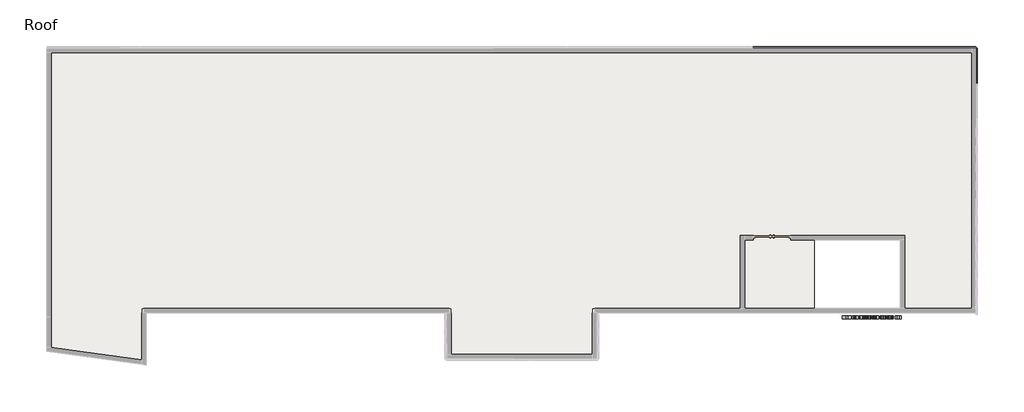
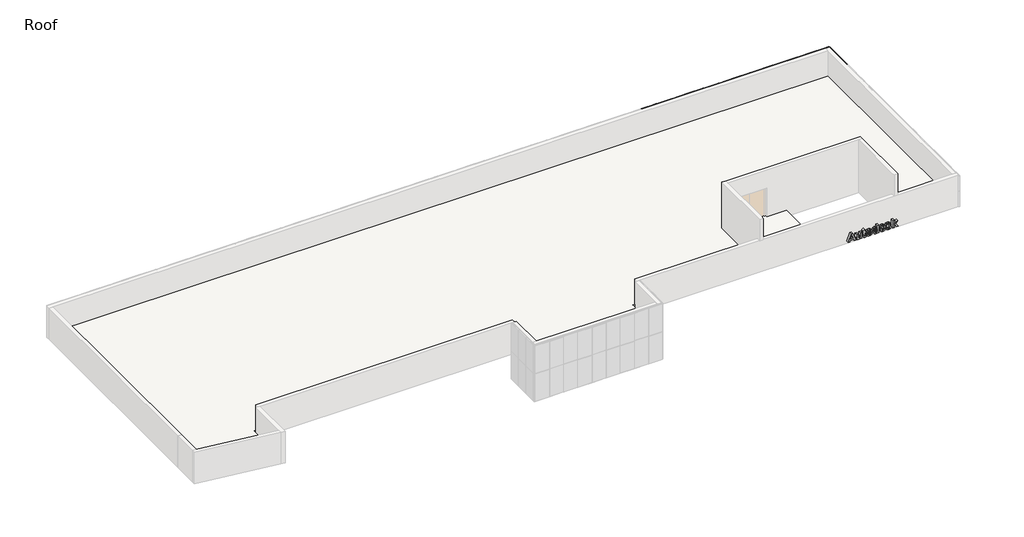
# One storey, part 5 of 5: 59 members, 28 plates, 1 proxy, 1 roof.
"""IFC4 building model written with IfcOpenShell, lengths in millimetres."""

from ifc_helpers import new_model, si_unit, frame, origin, place, context, project, spatial, polyline, outline, extrude, transform, mapped, element, save
from components import rectangular_mullion_25x25mm_ef735152, rectangular_mullion_25x25mm_e862664b, rectangular_mullion_25x25mm_75dba7a0, rectangular_mullion_25x25mm_b2138df4, curtain_panels_solid_solid_panel_green_f9f5bd6f, curtain_panels_solid_solid_panel_green_e697928e

model = new_model("IFC4")

# Units and contexts
model_context = context("Model", 3, world=origin())
ifc_project = project(units=[si_unit("LENGTHUNIT", "METRE", prefix="MILLI")], contexts=[model_context])

# Site, building, storey
site = spatial("IfcSite", under=ifc_project)
building = spatial("IfcBuilding", under=site)
storey = spatial("IfcBuildingStorey", under=building, Name="Roof", Elevation=14600.0)

# Proxy
placement = place(None, origin())
element("IfcBuildingElementProxy", 1, Name="450mm", ObjectType="450mm", at=placement, inside=storey, context=model_context, shape_type="SweptSolid", body=[
    extrude(outline(polyline([(14840.0, 37064.9075628), (15299.11673, 36895.6993632), (15299.11673, 36802.3274092), (14840.0, 36634.9411014), (14840.0, 36728.1991871), (14942.02594, 36763.726077), (14942.02594, 36937.0335331), (14840.0, 36973.0158958), (14840.0, 37064.9075628)]), holes=[polyline([(15022.1891786, 36909.0219469), (15022.1891786, 36791.6237949), (15189.8032228, 36849.9243321), (15022.1891786, 36909.0219469)])]), frame((0.0, -3760.0053409, 0.0), z_axis=(0.0, 1.0, 0.0), x_axis=(0.0, 0.0, 1.0)), (0.0, 0.0, 1.0), 150.0),
    extrude(outline(polyline([(14840.0, 37319.9724128), (14840.0, 37407.4232185), (15175.2280886, 37407.4232185), (15175.2280886, 37319.9724128), (15033.006661, 37319.9724128), (14974.037148, 37318.3640239), (14941.9690059, 37313.5388574), (14924.8745369, 37304.3439973), (14910.8260432, 37289.6265277), (14901.4319136, 37270.9948375), (14898.3005371, 37250.0573155), (14900.6490695, 37232.3935053), (14907.6946667, 37218.1172751), (14918.7398856, 37207.4990621), (14933.0872834, 37200.8093032), (14962.8780608, 37197.2651543), (15020.2534185, 37196.0837713), (15175.2280886, 37196.0837713), (15175.2280886, 37108.6329656), (14963.3193002, 37108.6329656), (14921.088418, 37111.4796715), (14889.1341441, 37120.0197893), (14865.3214491, 37134.9365283), (14847.5153036, 37156.913098), (14836.4131505, 37184.0422053), (14832.7124329, 37214.4165574), (14836.4843182, 37245.1467478), (14847.7999742, 37274.2543158), (14865.6915209, 37299.8319684), (14889.1910782, 37319.9724128), (14840.0, 37319.9724128)])), frame((0.0, -3760.0053409, 0.0), z_axis=(0.0, 1.0, 0.0), x_axis=(0.0, 0.0, 1.0)), (0.0, 0.0, 1.0), 150.0),
    extrude(outline(polyline([(15175.2280886, 37655.2005013), (15175.2280886, 37589.612397), (15291.8291628, 37589.612397), (15240.8161928, 37502.1615913), (15175.2280886, 37502.1615913), (15175.2280886, 37458.4361885), (15109.6399843, 37458.4361885), (15109.6399843, 37502.1615913), (14960.9280673, 37502.1615913), (14897.275723, 37505.0082972), (14877.3772487, 37510.0327332), (14862.0904379, 37517.8184739), (14850.3050754, 37529.6180699), (14840.9109459, 37546.6840718), (14834.7620611, 37567.5788933), (14832.7124329, 37590.8649476), (14835.673007, 37628.7546034), (14844.5547295, 37662.4880685), (14906.7267866, 37658.8442849), (14898.3005371, 37617.8517197), (14903.026069, 37600.657616), (14914.9822338, 37591.6050912), (14965.8244014, 37589.612397), (15109.6399843, 37589.612397), (15109.6399843, 37655.2005013), (15175.2280886, 37655.2005013)])), frame((0.0, -3760.0053409, 0.0), z_axis=(0.0, 1.0, 0.0), x_axis=(0.0, 0.0, 1.0)), (0.0, 0.0, 1.0), 150.0),
    extrude(outline(polyline([(15012.3965102, 37684.3507699), (14959.0492414, 37689.7452776), (14935.6635523, 37696.4884122), (14914.4698267, 37705.9288007), (14895.5854914, 37717.9561332), (14879.1279728, 37732.4600999), (14865.097271, 37749.4407006), (14853.493386, 37768.8979356), (14837.9076712, 37811.3565543), (14832.7124329, 37855.9502025), (14835.8331342, 37891.2208887), (14845.1952383, 37923.3601985), (14860.7987451, 37952.3681318), (14882.6436546, 37978.2446886), (14909.2354462, 37999.5166985), (14939.0795994, 38014.7109913), (14972.176114, 38023.827567), (15008.5249902, 38026.8664256), (15044.5856374, 38023.8595925), (15077.3868063, 38014.8390931), (15106.9284969, 37999.8049275), (15133.2107093, 37978.7570956), (15154.7816233, 37952.9979655), (15170.1894191, 37923.829905), (15179.4340965, 37891.2529142), (15182.5156557, 37855.266993), (15177.0784474, 37808.8372196), (15160.7668225, 37767.0191097), (15148.6718808, 37748.3838611), (15134.1358887, 37731.9903934), (15117.1588463, 37717.8387066), (15097.7407535, 37705.9288007), (15055.7660748, 37689.7452776), (15012.3965102, 37684.3507699)]), holes=[polyline([(15007.6140443, 37771.8015756), (15032.5405129, 37773.3138881), (15054.3711889, 37777.8508257), (15073.1060722, 37785.4123883), (15088.7451629, 37795.9985759), (15101.0749579, 37808.8051941), (15109.8819543, 37823.0280485), (15115.1661521, 37838.6671392), (15116.9275514, 37855.722466), (15115.1661521, 37872.770676), (15109.8819543, 37888.3884164), (15101.0749579, 37902.575687), (15088.7451629, 37915.3324878), (15073.1487728, 37925.8688581), (15054.5419913, 37933.3948369), (15032.9248182, 37937.9104241), (15008.2972537, 37939.4156199), (14983.0718809, 37937.9104241), (14961.027702, 37933.3948369), (14942.1647169, 37925.8688581), (14926.4829257, 37915.3324878), (14914.1531307, 37902.575687), (14905.3461343, 37888.3884164), (14900.0619364, 37872.770676), (14898.3005371, 37855.722466), (14900.0619364, 37838.6671392), (14905.3461343, 37823.0280485), (14914.1531307, 37808.8051941), (14926.4829257, 37795.9985759), (14942.1220163, 37785.4123883), (14960.8568996, 37777.8508257), (14982.6875756, 37773.3138881), (15007.6140443, 37771.8015756)])]), frame((0.0, -3760.0053409, 0.0), z_axis=(0.0, 1.0, 0.0), x_axis=(0.0, 0.0, 1.0)), (0.0, 0.0, 1.0), 150.0),
    extrude(outline(polyline([(14840.0, 38391.2447827), (15299.11673, 38391.2447827), (15299.11673, 38303.793977), (15136.6267563, 38303.793977), (15156.7031498, 38282.8279879), (15171.0434309, 38260.01164), (15179.6475995, 38235.3449333), (15182.5156557, 38208.8278677), (15179.7472342, 38180.1757726), (15171.4419697, 38154.11418), (15157.5998622, 38130.6430897), (15138.2209117, 38109.7625018), (15113.5257378, 38092.6253322), (15083.7349604, 38080.3844968), (15048.8485795, 38073.0399955), (15008.8665949, 38070.5918284), (14969.5464694, 38073.0435539), (14934.823774, 38080.3987303), (14904.6985087, 38092.6573577), (14879.1706734, 38109.819436), (14858.8451932, 38130.4189116), (14844.326993, 38152.9897312), (14835.6160729, 38177.5318945), (14832.7124329, 38204.0454017), (14836.1427135, 38230.9325391), (14846.4335554, 38257.6204071), (14863.7557609, 38282.4579162), (14888.2801323, 38303.793977), (14840.0, 38303.793977), (14840.0, 38391.2447827)]), holes=[polyline([(15013.9906655, 38158.0426342), (15058.8832178, 38163.280573), (15076.5683783, 38169.8279966), (15091.0794617, 38178.9943897), (15102.388001, 38190.0965428), (15110.465529, 38202.4512464), (15115.3120458, 38216.0585007), (15116.9275514, 38230.9183056), (15115.2942539, 38246.1944412), (15110.3943613, 38260.0258736), (15102.2278737, 38272.4126027), (15090.7947911, 38283.3546285), (15075.6467573, 38292.2968435), (15056.335416, 38298.6841399), (15005.2228113, 38303.793977), (14958.5510678, 38298.5275711), (14940.1791395, 38291.9445636), (14925.1165069, 38282.7283532), (14913.3845201, 38271.6262002), (14905.0045296, 38259.3853647), (14899.9765352, 38246.0058469), (14898.3005371, 38231.4876468), (14900.5352013, 38213.6316839), (14907.2391937, 38197.8680499), (14918.4125144, 38184.1967448), (14934.0551634, 38172.6177684), (14966.3937426, 38161.6864177), (15013.9906655, 38158.0426342)])]), frame((0.0, -3760.0053409, 0.0), z_axis=(0.0, 1.0, 0.0), x_axis=(0.0, 0.0, 1.0)), (0.0, 0.0, 1.0), 150.0),
    extrude(outline(polyline([(14942.02594, 38668.1723341), (14922.1843998, 38659.5468152), (14908.6625467, 38647.5621833), (14900.8910395, 38632.3323067), (14898.3005371, 38613.9710535), (14904.0508831, 38587.0127485), (14921.3019209, 38564.8938435), (14948.9149683, 38549.8917034), (14985.7513429, 38544.2836927), (14985.7513429, 38762.910707), (15032.5156043, 38761.0674649), (15072.8320768, 38753.7158469), (15106.7007604, 38740.8558529), (15134.1216551, 38722.487483), (15155.2940304, 38699.4362818), (15170.4171556, 38672.5277942), (15179.4910307, 38641.76202), (15182.5156557, 38607.1389593), (15179.5693151, 38575.9817631), (15170.7302932, 38547.6428057), (15155.9985901, 38522.1220872), (15135.3742057, 38499.4196075), (15109.5545831, 38480.7879173), (15079.2371651, 38467.4795671), (15044.4219518, 38459.494557), (15005.1089431, 38456.832887), (14971.7669, 38458.8398147), (14941.4281318, 38464.8605977), (14914.0926382, 38474.895236), (14889.7604194, 38488.9437297), (14864.8019253, 38512.0233979), (14846.9744295, 38540.6114421), (14836.277932, 38574.7078622), (14832.7124329, 38614.3126582), (14834.2247454, 38639.9543618), (14838.7616829, 38663.3614011), (14846.3232455, 38684.5337764), (14856.9094331, 38703.4714875), (14870.392144, 38720.09625), (14886.6432764, 38734.3297796), (14905.6628303, 38746.1720762), (14927.4508057, 38755.6231398), (14942.02594, 38668.1723341)]), holes=[polyline([(15036.7643128, 38675.4599013), (15036.7643128, 38545.7639798), (15069.9284368, 38550.204841), (15095.4064547, 38563.9828976), (15111.5472772, 38584.9915873), (15116.9275514, 38610.8966111), (15111.8177143, 38635.4352161), (15096.4882029, 38655.9884328), (15071.3375562, 38670.1365612), (15036.7643128, 38675.4599013)])]), frame((0.0, -3760.0053409, 0.0), z_axis=(0.0, 1.0, 0.0), x_axis=(0.0, 0.0, 1.0)), (0.0, 0.0, 1.0), 150.0),
    extrude(outline(polyline([(14934.7383729, 38792.0609756), (14912.3988482, 38799.779107), (14892.5217241, 38810.8634681), (14875.1070007, 38825.314059), (14860.1546779, 38843.1308797), (14848.1486957, 38864.3779809), (14839.5729941, 38889.1194137), (14834.4275732, 38917.355178), (14832.7124329, 38949.0852738), (14834.7727363, 38983.7190097), (14840.9536465, 39013.8335999), (14851.2551635, 39039.4290444), (14865.6772874, 39060.5053434), (14882.9674674, 39076.9699787), (14901.8731531, 39088.7304325), (14922.3943443, 39095.7867048), (14944.5310412, 39098.1387955), (14964.4366323, 39096.5161732), (14982.0221581, 39091.6483061), (14997.2876186, 39083.5351942), (15010.2330137, 39072.1768376), (15021.3849841, 39056.5804476), (15031.6117751, 39035.9809719), (15049.2898189, 38979.7727636), (15063.324079, 38927.3222071), (15073.7714897, 38902.3992968), (15081.0305898, 38896.1650109), (15089.5991746, 38894.0869156), (15099.5057112, 38896.1650109), (15107.3626195, 38902.3992968), (15114.5363184, 38919.0525264), (15116.9275514, 38943.9612032), (15114.1093126, 38964.2297493), (15105.654596, 38979.2603565), (15091.9050064, 38989.6793002), (15073.2021486, 38996.1128556), (15087.7772828, 39083.5636613), (15109.7965531, 39076.2832109), (15128.9406504, 39066.5118928), (15145.2095747, 39054.2497071), (15158.603326, 39039.4966537), (15169.0649703, 39021.3844873), (15176.5375733, 38999.0449626), (15181.0211351, 38972.4780797), (15182.5156557, 38941.6838385), (15180.6652969, 38909.3381425), (15175.1142203, 38881.5329425), (15165.8624261, 38858.2682384), (15152.9099142, 38839.5440302), (15137.2459149, 38825.1468151), (15119.8596585, 38814.8630899), (15100.7511451, 38808.6928549), (15079.9203745, 38806.6361098), (15057.153844, 38809.0344596), (15037.0205164, 38816.2295088), (15019.5203918, 38828.2212574), (15004.6534701, 38845.0097056), (14994.6757659, 38863.5773449), (14984.2141217, 38891.6102814), (14961.8390132, 38976.0720459), (14956.3448707, 38994.3194308), (14950.3383213, 39004.6529733), (14942.99382, 39009.1792357), (14933.9412952, 39010.6879898), (14920.846448, 39007.8412839), (14910.7121749, 38999.3011662), (14901.4034466, 38978.3209436), (14898.3005371, 38949.0852738), (14901.5457819, 38922.1412023), (14911.2815161, 38901.8868898), (14927.2800034, 38887.8383961), (14949.3135071, 38879.5117813), (14934.7383729, 38792.0609756)])), frame((0.0, -3760.0053409, 0.0), z_axis=(0.0, 1.0, 0.0), x_axis=(0.0, 0.0, 1.0)), (0.0, 0.0, 1.0), 150.0),
    extrude(outline(polyline([(14840.0, 39178.3020341), (14840.0, 39265.7528398), (14947.3777471, 39265.7528398), (14990.1922041, 39304.6957767), (14840.0, 39393.2852648), (14840.0, 39480.7360705), (15052.0226566, 39360.9466856), (15175.2280886, 39473.4485034), (15175.2280886, 39371.4225634), (15057.1467272, 39265.7528398), (15299.11673, 39265.7528398), (15299.11673, 39178.3020341), (14840.0, 39178.3020341)])), frame((0.0, -3760.0053409, 0.0), z_axis=(0.0, 1.0, 0.0), x_axis=(0.0, 0.0, 1.0)), (0.0, 0.0, 1.0), 150.0),
])

# Members
rectangular_mullion_25x25mm_shape = rectangular_mullion_25x25mm_ef735152(model_context)
element("IfcMember", 2, ObjectType="Rectangular Mullion : 25x25mm", at=placement, inside=storey, context=model_context, shape_type="MappedRepresentation", body=[
    mapped(rectangular_mullion_25x25mm_shape, transform((32350.0502624, 9309.2487558, 14625.0), x_axis=(-1.0, 0.0, 0.0), y_axis=(0.0, 1.0, 0.0), z_axis=(0.0, 0.0, -1.0))),
])
element("IfcMember", 3, ObjectType="Rectangular Mullion : 25x25mm", at=placement, inside=storey, context=model_context, shape_type="MappedRepresentation", body=[
    mapped(rectangular_mullion_25x25mm_shape, transform((33244.3205936, 9309.2487558, 14625.0), x_axis=(-1.0, 0.0, 0.0), y_axis=(0.0, 1.0, 0.0), z_axis=(0.0, 0.0, -1.0))),
])
element("IfcMember", 4, ObjectType="Rectangular Mullion : 25x25mm", at=placement, inside=storey, context=model_context, shape_type="MappedRepresentation", body=[
    mapped(rectangular_mullion_25x25mm_shape, transform((34138.5909247, 9309.2487558, 14625.0), x_axis=(-1.0, 0.0, 0.0), y_axis=(0.0, 1.0, 0.0), z_axis=(0.0, 0.0, -1.0))),
])
element("IfcMember", 5, ObjectType="Rectangular Mullion : 25x25mm", at=placement, inside=storey, context=model_context, shape_type="MappedRepresentation", body=[
    mapped(rectangular_mullion_25x25mm_shape, transform((35032.8612559, 9309.2487558, 14625.0), x_axis=(-1.0, 0.0, 0.0), y_axis=(0.0, 1.0, 0.0), z_axis=(0.0, 0.0, -1.0))),
])
element("IfcMember", 6, ObjectType="Rectangular Mullion : 25x25mm", at=placement, inside=storey, context=model_context, shape_type="MappedRepresentation", body=[
    mapped(rectangular_mullion_25x25mm_shape, transform((35927.1315871, 9309.2487558, 14625.0), x_axis=(-1.0, 0.0, 0.0), y_axis=(0.0, 1.0, 0.0), z_axis=(0.0, 0.0, -1.0))),
])
element("IfcMember", 7, ObjectType="Rectangular Mullion : 25x25mm", at=placement, inside=storey, context=model_context, shape_type="MappedRepresentation", body=[
    mapped(rectangular_mullion_25x25mm_shape, transform((36821.4019182, 9309.2487558, 14625.0), x_axis=(-1.0, 0.0, 0.0), y_axis=(0.0, 1.0, 0.0), z_axis=(0.0, 0.0, -1.0))),
])
element("IfcMember", 8, ObjectType="Rectangular Mullion : 25x25mm", at=placement, inside=storey, context=model_context, shape_type="MappedRepresentation", body=[
    mapped(rectangular_mullion_25x25mm_shape, transform((37715.6722494, 9309.2487558, 14625.0), x_axis=(-1.0, 0.0, 0.0), y_axis=(0.0, 1.0, 0.0), z_axis=(0.0, 0.0, -1.0))),
])
element("IfcMember", 9, ObjectType="Rectangular Mullion : 25x25mm", at=placement, inside=storey, context=model_context, shape_type="MappedRepresentation", body=[
    mapped(rectangular_mullion_25x25mm_shape, transform((38609.9425805, 9309.2487558, 14625.0), x_axis=(-1.0, 0.0, 0.0), y_axis=(0.0, 1.0, 0.0), z_axis=(0.0, 0.0, -1.0))),
])
element("IfcMember", 10, ObjectType="Rectangular Mullion : 25x25mm", at=placement, inside=storey, context=model_context, shape_type="MappedRepresentation", body=[
    mapped(rectangular_mullion_25x25mm_shape, transform((39504.2129117, 9309.2487558, 14625.0), x_axis=(-1.0, 0.0, 0.0), y_axis=(0.0, 1.0, 0.0), z_axis=(0.0, 0.0, -1.0))),
])
element("IfcMember", 11, ObjectType="Rectangular Mullion : 25x25mm", at=placement, inside=storey, context=model_context, shape_type="MappedRepresentation", body=[
    mapped(rectangular_mullion_25x25mm_shape, transform((40398.4832429, 9309.2487558, 14625.0), x_axis=(-1.0, 0.0, 0.0), y_axis=(0.0, 1.0, 0.0), z_axis=(0.0, 0.0, -1.0))),
])
element("IfcMember", 12, ObjectType="Rectangular Mullion : 25x25mm", at=placement, inside=storey, context=model_context, shape_type="MappedRepresentation", body=[
    mapped(rectangular_mullion_25x25mm_shape, transform((41292.753574, 9309.2487558, 14625.0), x_axis=(-1.0, 0.0, 0.0), y_axis=(0.0, 1.0, 0.0), z_axis=(0.0, 0.0, -1.0))),
])
element("IfcMember", 13, ObjectType="Rectangular Mullion : 25x25mm", at=placement, inside=storey, context=model_context, shape_type="MappedRepresentation", body=[
    mapped(rectangular_mullion_25x25mm_shape, transform((42187.0239052, 9309.2487558, 14625.0), x_axis=(-1.0, 0.0, 0.0), y_axis=(0.0, 1.0, 0.0), z_axis=(0.0, 0.0, -1.0))),
])
element("IfcMember", 14, ObjectType="Rectangular Mullion : 25x25mm", at=placement, inside=storey, context=model_context, shape_type="MappedRepresentation", body=[
    mapped(rectangular_mullion_25x25mm_shape, transform((32350.0502624, 9309.2487558, 15550.0), x_axis=(-1.0, 0.0, 0.0), y_axis=(0.0, 1.0, 0.0), z_axis=(0.0, 0.0, -1.0))),
])
element("IfcMember", 15, ObjectType="Rectangular Mullion : 25x25mm", at=placement, inside=storey, context=model_context, shape_type="MappedRepresentation", body=[
    mapped(rectangular_mullion_25x25mm_shape, transform((33244.3205936, 9309.2487558, 15550.0), x_axis=(-1.0, 0.0, 0.0), y_axis=(0.0, 1.0, 0.0), z_axis=(0.0, 0.0, -1.0))),
])
element("IfcMember", 16, ObjectType="Rectangular Mullion : 25x25mm", at=placement, inside=storey, context=model_context, shape_type="MappedRepresentation", body=[
    mapped(rectangular_mullion_25x25mm_shape, transform((34138.5909247, 9309.2487558, 15550.0), x_axis=(-1.0, 0.0, 0.0), y_axis=(0.0, 1.0, 0.0), z_axis=(0.0, 0.0, -1.0))),
])
element("IfcMember", 17, ObjectType="Rectangular Mullion : 25x25mm", at=placement, inside=storey, context=model_context, shape_type="MappedRepresentation", body=[
    mapped(rectangular_mullion_25x25mm_shape, transform((35032.8612559, 9309.2487558, 15550.0), x_axis=(-1.0, 0.0, 0.0), y_axis=(0.0, 1.0, 0.0), z_axis=(0.0, 0.0, -1.0))),
])
element("IfcMember", 18, ObjectType="Rectangular Mullion : 25x25mm", at=placement, inside=storey, context=model_context, shape_type="MappedRepresentation", body=[
    mapped(rectangular_mullion_25x25mm_shape, transform((35927.1315871, 9309.2487558, 15550.0), x_axis=(-1.0, 0.0, 0.0), y_axis=(0.0, 1.0, 0.0), z_axis=(0.0, 0.0, -1.0))),
])
element("IfcMember", 19, ObjectType="Rectangular Mullion : 25x25mm", at=placement, inside=storey, context=model_context, shape_type="MappedRepresentation", body=[
    mapped(rectangular_mullion_25x25mm_shape, transform((36821.4019182, 9309.2487558, 15550.0), x_axis=(-1.0, 0.0, 0.0), y_axis=(0.0, 1.0, 0.0), z_axis=(0.0, 0.0, -1.0))),
])
element("IfcMember", 20, ObjectType="Rectangular Mullion : 25x25mm", at=placement, inside=storey, context=model_context, shape_type="MappedRepresentation", body=[
    mapped(rectangular_mullion_25x25mm_shape, transform((37715.6722494, 9309.2487558, 15550.0), x_axis=(-1.0, 0.0, 0.0), y_axis=(0.0, 1.0, 0.0), z_axis=(0.0, 0.0, -1.0))),
])
element("IfcMember", 21, ObjectType="Rectangular Mullion : 25x25mm", at=placement, inside=storey, context=model_context, shape_type="MappedRepresentation", body=[
    mapped(rectangular_mullion_25x25mm_shape, transform((38609.9425805, 9309.2487558, 15550.0), x_axis=(-1.0, 0.0, 0.0), y_axis=(0.0, 1.0, 0.0), z_axis=(0.0, 0.0, -1.0))),
])
element("IfcMember", 22, ObjectType="Rectangular Mullion : 25x25mm", at=placement, inside=storey, context=model_context, shape_type="MappedRepresentation", body=[
    mapped(rectangular_mullion_25x25mm_shape, transform((39504.2129117, 9309.2487558, 15550.0), x_axis=(-1.0, 0.0, 0.0), y_axis=(0.0, 1.0, 0.0), z_axis=(0.0, 0.0, -1.0))),
])
element("IfcMember", 23, ObjectType="Rectangular Mullion : 25x25mm", at=placement, inside=storey, context=model_context, shape_type="MappedRepresentation", body=[
    mapped(rectangular_mullion_25x25mm_shape, transform((40398.4832429, 9309.2487558, 15550.0), x_axis=(-1.0, 0.0, 0.0), y_axis=(0.0, 1.0, 0.0), z_axis=(0.0, 0.0, -1.0))),
])
element("IfcMember", 24, ObjectType="Rectangular Mullion : 25x25mm", at=placement, inside=storey, context=model_context, shape_type="MappedRepresentation", body=[
    mapped(rectangular_mullion_25x25mm_shape, transform((41292.753574, 9309.2487558, 15550.0), x_axis=(-1.0, 0.0, 0.0), y_axis=(0.0, 1.0, 0.0), z_axis=(0.0, 0.0, -1.0))),
])
element("IfcMember", 25, ObjectType="Rectangular Mullion : 25x25mm", at=placement, inside=storey, context=model_context, shape_type="MappedRepresentation", body=[
    mapped(rectangular_mullion_25x25mm_shape, transform((42187.0239052, 9309.2487558, 15550.0), x_axis=(-1.0, 0.0, 0.0), y_axis=(0.0, 1.0, 0.0), z_axis=(0.0, 0.0, -1.0))),
])
rectangular_mullion_25x25mm_2_shape = rectangular_mullion_25x25mm_e862664b(model_context)
element("IfcMember", 26, ObjectType="Rectangular Mullion : 25x25mm", at=placement, inside=storey, context=model_context, shape_type="MappedRepresentation", body=[
    mapped(rectangular_mullion_25x25mm_2_shape, transform((41292.753574, 9309.2487558, 16500.0), x_axis=(0.0, 0.0, 1.0), y_axis=(0.0, 1.0, 0.0), z_axis=(-1.0, 0.0, 0.0))),
])
element("IfcMember", 27, ObjectType="Rectangular Mullion : 25x25mm", at=placement, inside=storey, context=model_context, shape_type="MappedRepresentation", body=[
    mapped(rectangular_mullion_25x25mm_2_shape, transform((40398.4832429, 9309.2487558, 16500.0), x_axis=(0.0, 0.0, 1.0), y_axis=(0.0, 1.0, 0.0), z_axis=(-1.0, 0.0, 0.0))),
])
element("IfcMember", 28, ObjectType="Rectangular Mullion : 25x25mm", at=placement, inside=storey, context=model_context, shape_type="MappedRepresentation", body=[
    mapped(rectangular_mullion_25x25mm_2_shape, transform((39504.2129117, 9309.2487558, 16500.0), x_axis=(0.0, 0.0, 1.0), y_axis=(0.0, 1.0, 0.0), z_axis=(-1.0, 0.0, 0.0))),
])
element("IfcMember", 29, ObjectType="Rectangular Mullion : 25x25mm", at=placement, inside=storey, context=model_context, shape_type="MappedRepresentation", body=[
    mapped(rectangular_mullion_25x25mm_2_shape, transform((38609.9425805, 9309.2487558, 16500.0), x_axis=(0.0, 0.0, 1.0), y_axis=(0.0, 1.0, 0.0), z_axis=(-1.0, 0.0, 0.0))),
])
element("IfcMember", 30, ObjectType="Rectangular Mullion : 25x25mm", at=placement, inside=storey, context=model_context, shape_type="MappedRepresentation", body=[
    mapped(rectangular_mullion_25x25mm_2_shape, transform((37715.6722494, 9309.2487558, 16500.0), x_axis=(0.0, 0.0, 1.0), y_axis=(0.0, 1.0, 0.0), z_axis=(-1.0, 0.0, 0.0))),
])
element("IfcMember", 31, ObjectType="Rectangular Mullion : 25x25mm", at=placement, inside=storey, context=model_context, shape_type="MappedRepresentation", body=[
    mapped(rectangular_mullion_25x25mm_2_shape, transform((36821.4019182, 9309.2487558, 16500.0), x_axis=(0.0, 0.0, 1.0), y_axis=(0.0, 1.0, 0.0), z_axis=(-1.0, 0.0, 0.0))),
])
element("IfcMember", 32, ObjectType="Rectangular Mullion : 25x25mm", at=placement, inside=storey, context=model_context, shape_type="MappedRepresentation", body=[
    mapped(rectangular_mullion_25x25mm_2_shape, transform((35927.1315871, 9309.2487558, 16500.0), x_axis=(0.0, 0.0, 1.0), y_axis=(0.0, 1.0, 0.0), z_axis=(-1.0, 0.0, 0.0))),
])
element("IfcMember", 33, ObjectType="Rectangular Mullion : 25x25mm", at=placement, inside=storey, context=model_context, shape_type="MappedRepresentation", body=[
    mapped(rectangular_mullion_25x25mm_2_shape, transform((35032.8612559, 9309.2487558, 16500.0), x_axis=(0.0, 0.0, 1.0), y_axis=(0.0, 1.0, 0.0), z_axis=(-1.0, 0.0, 0.0))),
])
element("IfcMember", 34, ObjectType="Rectangular Mullion : 25x25mm", at=placement, inside=storey, context=model_context, shape_type="MappedRepresentation", body=[
    mapped(rectangular_mullion_25x25mm_2_shape, transform((34138.5909247, 9309.2487558, 16500.0), x_axis=(0.0, 0.0, 1.0), y_axis=(0.0, 1.0, 0.0), z_axis=(-1.0, 0.0, 0.0))),
])
element("IfcMember", 35, ObjectType="Rectangular Mullion : 25x25mm", at=placement, inside=storey, context=model_context, shape_type="MappedRepresentation", body=[
    mapped(rectangular_mullion_25x25mm_2_shape, transform((33244.3205936, 9309.2487558, 16500.0), x_axis=(0.0, 0.0, 1.0), y_axis=(0.0, 1.0, 0.0), z_axis=(-1.0, 0.0, 0.0))),
])
element("IfcMember", 36, ObjectType="Rectangular Mullion : 25x25mm", at=placement, inside=storey, context=model_context, shape_type="MappedRepresentation", body=[
    mapped(rectangular_mullion_25x25mm_2_shape, transform((32350.0502624, 9309.2487558, 16500.0), x_axis=(0.0, 0.0, 1.0), y_axis=(0.0, 1.0, 0.0), z_axis=(-1.0, 0.0, 0.0))),
])
element("IfcMember", 37, ObjectType="Rectangular Mullion : 25x25mm", at=placement, inside=storey, context=model_context, shape_type="MappedRepresentation", body=[
    mapped(rectangular_mullion_25x25mm_2_shape, transform((42187.0239052, 9309.2487558, 14600.0), x_axis=(0.0, 0.0, -1.0), y_axis=(0.0, 1.0, 0.0), z_axis=(1.0, 0.0, 0.0))),
])
element("IfcMember", 38, ObjectType="Rectangular Mullion : 25x25mm", at=placement, inside=storey, context=model_context, shape_type="MappedRepresentation", body=[
    mapped(rectangular_mullion_25x25mm_2_shape, transform((41292.753574, 9309.2487558, 14600.0), x_axis=(0.0, 0.0, -1.0), y_axis=(0.0, 1.0, 0.0), z_axis=(1.0, 0.0, 0.0))),
])
element("IfcMember", 39, ObjectType="Rectangular Mullion : 25x25mm", at=placement, inside=storey, context=model_context, shape_type="MappedRepresentation", body=[
    mapped(rectangular_mullion_25x25mm_2_shape, transform((40398.4832429, 9309.2487558, 14600.0), x_axis=(0.0, 0.0, -1.0), y_axis=(0.0, 1.0, 0.0), z_axis=(1.0, 0.0, 0.0))),
])
element("IfcMember", 40, ObjectType="Rectangular Mullion : 25x25mm", at=placement, inside=storey, context=model_context, shape_type="MappedRepresentation", body=[
    mapped(rectangular_mullion_25x25mm_2_shape, transform((39504.2129117, 9309.2487558, 14600.0), x_axis=(0.0, 0.0, -1.0), y_axis=(0.0, 1.0, 0.0), z_axis=(1.0, 0.0, 0.0))),
])
element("IfcMember", 41, ObjectType="Rectangular Mullion : 25x25mm", at=placement, inside=storey, context=model_context, shape_type="MappedRepresentation", body=[
    mapped(rectangular_mullion_25x25mm_2_shape, transform((38609.9425805, 9309.2487558, 14600.0), x_axis=(0.0, 0.0, -1.0), y_axis=(0.0, 1.0, 0.0), z_axis=(1.0, 0.0, 0.0))),
])
element("IfcMember", 42, ObjectType="Rectangular Mullion : 25x25mm", at=placement, inside=storey, context=model_context, shape_type="MappedRepresentation", body=[
    mapped(rectangular_mullion_25x25mm_2_shape, transform((37715.6722494, 9309.2487558, 14600.0), x_axis=(0.0, 0.0, -1.0), y_axis=(0.0, 1.0, 0.0), z_axis=(1.0, 0.0, 0.0))),
])
element("IfcMember", 43, ObjectType="Rectangular Mullion : 25x25mm", at=placement, inside=storey, context=model_context, shape_type="MappedRepresentation", body=[
    mapped(rectangular_mullion_25x25mm_2_shape, transform((36821.4019182, 9309.2487558, 14600.0), x_axis=(0.0, 0.0, -1.0), y_axis=(0.0, 1.0, 0.0), z_axis=(1.0, 0.0, 0.0))),
])
element("IfcMember", 44, ObjectType="Rectangular Mullion : 25x25mm", at=placement, inside=storey, context=model_context, shape_type="MappedRepresentation", body=[
    mapped(rectangular_mullion_25x25mm_2_shape, transform((35927.1315871, 9309.2487558, 14600.0), x_axis=(0.0, 0.0, -1.0), y_axis=(0.0, 1.0, 0.0), z_axis=(1.0, 0.0, 0.0))),
])
element("IfcMember", 45, ObjectType="Rectangular Mullion : 25x25mm", at=placement, inside=storey, context=model_context, shape_type="MappedRepresentation", body=[
    mapped(rectangular_mullion_25x25mm_2_shape, transform((35032.8612559, 9309.2487558, 14600.0), x_axis=(0.0, 0.0, -1.0), y_axis=(0.0, 1.0, 0.0), z_axis=(1.0, 0.0, 0.0))),
])
element("IfcMember", 46, ObjectType="Rectangular Mullion : 25x25mm", at=placement, inside=storey, context=model_context, shape_type="MappedRepresentation", body=[
    mapped(rectangular_mullion_25x25mm_2_shape, transform((34138.5909247, 9309.2487558, 14600.0), x_axis=(0.0, 0.0, -1.0), y_axis=(0.0, 1.0, 0.0), z_axis=(1.0, 0.0, 0.0))),
])
element("IfcMember", 47, ObjectType="Rectangular Mullion : 25x25mm", at=placement, inside=storey, context=model_context, shape_type="MappedRepresentation", body=[
    mapped(rectangular_mullion_25x25mm_2_shape, transform((33244.3205936, 9309.2487558, 14600.0), x_axis=(0.0, 0.0, -1.0), y_axis=(0.0, 1.0, 0.0), z_axis=(1.0, 0.0, 0.0))),
])
element("IfcMember", 48, ObjectType="Rectangular Mullion : 25x25mm", at=placement, inside=storey, context=model_context, shape_type="MappedRepresentation", body=[
    mapped(rectangular_mullion_25x25mm_2_shape, transform((32350.0502624, 9309.2487558, 14600.0), x_axis=(0.0, 0.0, -1.0), y_axis=(0.0, 1.0, 0.0), z_axis=(1.0, 0.0, 0.0))),
])
rectangular_mullion_25x25mm_3_shape = rectangular_mullion_25x25mm_75dba7a0(model_context)
element("IfcMember", 49, ObjectType="Rectangular Mullion : 25x25mm", at=placement, inside=storey, context=model_context, shape_type="MappedRepresentation", body=[
    mapped(rectangular_mullion_25x25mm_3_shape, transform((41305.253574, 9309.2487558, 15550.0), x_axis=(0.0, 0.0, 1.0), y_axis=(0.0, 1.0, 0.0), z_axis=(-1.0, 0.0, 0.0))),
])
element("IfcMember", 50, ObjectType="Rectangular Mullion : 25x25mm", at=placement, inside=storey, context=model_context, shape_type="MappedRepresentation", body=[
    mapped(rectangular_mullion_25x25mm_3_shape, transform((40410.9832429, 9309.2487558, 15550.0), x_axis=(0.0, 0.0, 1.0), y_axis=(0.0, 1.0, 0.0), z_axis=(-1.0, 0.0, 0.0))),
])
element("IfcMember", 51, ObjectType="Rectangular Mullion : 25x25mm", at=placement, inside=storey, context=model_context, shape_type="MappedRepresentation", body=[
    mapped(rectangular_mullion_25x25mm_3_shape, transform((39516.7129117, 9309.2487558, 15550.0), x_axis=(0.0, 0.0, 1.0), y_axis=(0.0, 1.0, 0.0), z_axis=(-1.0, 0.0, 0.0))),
])
element("IfcMember", 52, ObjectType="Rectangular Mullion : 25x25mm", at=placement, inside=storey, context=model_context, shape_type="MappedRepresentation", body=[
    mapped(rectangular_mullion_25x25mm_3_shape, transform((38622.4425805, 9309.2487558, 15550.0), x_axis=(0.0, 0.0, 1.0), y_axis=(0.0, 1.0, 0.0), z_axis=(-1.0, 0.0, 0.0))),
])
element("IfcMember", 53, ObjectType="Rectangular Mullion : 25x25mm", at=placement, inside=storey, context=model_context, shape_type="MappedRepresentation", body=[
    mapped(rectangular_mullion_25x25mm_3_shape, transform((37728.1722494, 9309.2487558, 15550.0), x_axis=(0.0, 0.0, 1.0), y_axis=(0.0, 1.0, 0.0), z_axis=(-1.0, 0.0, 0.0))),
])
element("IfcMember", 54, ObjectType="Rectangular Mullion : 25x25mm", at=placement, inside=storey, context=model_context, shape_type="MappedRepresentation", body=[
    mapped(rectangular_mullion_25x25mm_3_shape, transform((36833.9019182, 9309.2487558, 15550.0), x_axis=(0.0, 0.0, 1.0), y_axis=(0.0, 1.0, 0.0), z_axis=(-1.0, 0.0, 0.0))),
])
element("IfcMember", 55, ObjectType="Rectangular Mullion : 25x25mm", at=placement, inside=storey, context=model_context, shape_type="MappedRepresentation", body=[
    mapped(rectangular_mullion_25x25mm_3_shape, transform((35939.6315871, 9309.2487558, 15550.0), x_axis=(0.0, 0.0, 1.0), y_axis=(0.0, 1.0, 0.0), z_axis=(-1.0, 0.0, 0.0))),
])
element("IfcMember", 56, ObjectType="Rectangular Mullion : 25x25mm", at=placement, inside=storey, context=model_context, shape_type="MappedRepresentation", body=[
    mapped(rectangular_mullion_25x25mm_3_shape, transform((35045.3612559, 9309.2487558, 15550.0), x_axis=(0.0, 0.0, 1.0), y_axis=(0.0, 1.0, 0.0), z_axis=(-1.0, 0.0, 0.0))),
])
element("IfcMember", 57, ObjectType="Rectangular Mullion : 25x25mm", at=placement, inside=storey, context=model_context, shape_type="MappedRepresentation", body=[
    mapped(rectangular_mullion_25x25mm_3_shape, transform((34151.0909247, 9309.2487558, 15550.0), x_axis=(0.0, 0.0, 1.0), y_axis=(0.0, 1.0, 0.0), z_axis=(-1.0, 0.0, 0.0))),
])
element("IfcMember", 58, ObjectType="Rectangular Mullion : 25x25mm", at=placement, inside=storey, context=model_context, shape_type="MappedRepresentation", body=[
    mapped(rectangular_mullion_25x25mm_3_shape, transform((33256.8205936, 9309.2487558, 15550.0), x_axis=(0.0, 0.0, 1.0), y_axis=(0.0, 1.0, 0.0), z_axis=(-1.0, 0.0, 0.0))),
])
element("IfcMember", 59, ObjectType="Rectangular Mullion : 25x25mm", at=placement, inside=storey, context=model_context, shape_type="MappedRepresentation", body=[
    mapped(rectangular_mullion_25x25mm_3_shape, transform((32362.5502624, 9309.2487558, 15550.0), x_axis=(0.0, 0.0, 1.0), y_axis=(0.0, 1.0, 0.0), z_axis=(-1.0, 0.0, 0.0))),
])
rectangular_mullion_25x25mm_4_shape = rectangular_mullion_25x25mm_b2138df4(model_context)
element("IfcMember", 60, ObjectType="Rectangular Mullion : 25x25mm", at=placement, inside=storey, context=model_context, shape_type="MappedRepresentation", body=[
    mapped(rectangular_mullion_25x25mm_4_shape, transform((42187.0239052, 9309.2487558, 16500.0), x_axis=(0.0, 0.0, 1.0), y_axis=(0.0, 1.0, 0.0), z_axis=(-1.0, 0.0, 0.0))),
])

# Plates
curtain_panels_solid_solid_panel_green_shape = curtain_panels_solid_solid_panel_green_f9f5bd6f(model_context)
element("IfcPlate", 61, ObjectType="Curtain_Panels_Solid : Solid_Panel_Green", at=placement, inside=storey, context=model_context, shape_type="MappedRepresentation", body=[
    mapped(curtain_panels_solid_solid_panel_green_shape, transform((42634.1590709, 9309.2487558, 14625.0), x_axis=(-1.0, 0.0, 0.0), y_axis=(0.0, -1.0, 0.0), z_axis=(0.0, 0.0, 1.0))),
])
element("IfcPlate", 62, ObjectType="Curtain_Panels_Solid : Solid_Panel_Green", at=placement, inside=storey, context=model_context, shape_type="MappedRepresentation", body=[
    mapped(curtain_panels_solid_solid_panel_green_shape, transform((42634.1590709, 9309.2487558, 15562.5), x_axis=(-1.0, 0.0, 0.0), y_axis=(0.0, -1.0, 0.0), z_axis=(0.0, 0.0, 1.0))),
])
element("IfcPlate", 63, ObjectType="Curtain_Panels_Solid : Solid_Panel_Green", at=placement, inside=storey, context=model_context, shape_type="MappedRepresentation", body=[
    mapped(curtain_panels_solid_solid_panel_green_shape, transform((32797.185428, 9309.2487558, 14625.0), x_axis=(-1.0, 0.0, 0.0), y_axis=(0.0, -1.0, 0.0), z_axis=(0.0, 0.0, 1.0))),
])
element("IfcPlate", 64, ObjectType="Curtain_Panels_Solid : Solid_Panel_Green", at=placement, inside=storey, context=model_context, shape_type="MappedRepresentation", body=[
    mapped(curtain_panels_solid_solid_panel_green_shape, transform((32797.185428, 9309.2487558, 15562.5), x_axis=(-1.0, 0.0, 0.0), y_axis=(0.0, -1.0, 0.0), z_axis=(0.0, 0.0, 1.0))),
])
element("IfcPlate", 65, ObjectType="Curtain_Panels_Solid : Solid_Panel_Green", at=placement, inside=storey, context=model_context, shape_type="MappedRepresentation", body=[
    mapped(curtain_panels_solid_solid_panel_green_shape, transform((33691.4557591, 9309.2487558, 14625.0), x_axis=(-1.0, 0.0, 0.0), y_axis=(0.0, -1.0, 0.0), z_axis=(0.0, 0.0, 1.0))),
])
element("IfcPlate", 66, ObjectType="Curtain_Panels_Solid : Solid_Panel_Green", at=placement, inside=storey, context=model_context, shape_type="MappedRepresentation", body=[
    mapped(curtain_panels_solid_solid_panel_green_shape, transform((33691.4557591, 9309.2487558, 15562.5), x_axis=(-1.0, 0.0, 0.0), y_axis=(0.0, -1.0, 0.0), z_axis=(0.0, 0.0, 1.0))),
])
element("IfcPlate", 67, ObjectType="Curtain_Panels_Solid : Solid_Panel_Green", at=placement, inside=storey, context=model_context, shape_type="MappedRepresentation", body=[
    mapped(curtain_panels_solid_solid_panel_green_shape, transform((34585.7260903, 9309.2487558, 14625.0), x_axis=(-1.0, 0.0, 0.0), y_axis=(0.0, -1.0, 0.0), z_axis=(0.0, 0.0, 1.0))),
])
element("IfcPlate", 68, ObjectType="Curtain_Panels_Solid : Solid_Panel_Green", at=placement, inside=storey, context=model_context, shape_type="MappedRepresentation", body=[
    mapped(curtain_panels_solid_solid_panel_green_shape, transform((34585.7260903, 9309.2487558, 15562.5), x_axis=(-1.0, 0.0, 0.0), y_axis=(0.0, -1.0, 0.0), z_axis=(0.0, 0.0, 1.0))),
])
element("IfcPlate", 69, ObjectType="Curtain_Panels_Solid : Solid_Panel_Green", at=placement, inside=storey, context=model_context, shape_type="MappedRepresentation", body=[
    mapped(curtain_panels_solid_solid_panel_green_shape, transform((35479.9964215, 9309.2487558, 14625.0), x_axis=(-1.0, 0.0, 0.0), y_axis=(0.0, -1.0, 0.0), z_axis=(0.0, 0.0, 1.0))),
])
element("IfcPlate", 70, ObjectType="Curtain_Panels_Solid : Solid_Panel_Green", at=placement, inside=storey, context=model_context, shape_type="MappedRepresentation", body=[
    mapped(curtain_panels_solid_solid_panel_green_shape, transform((35479.9964215, 9309.2487558, 15562.5), x_axis=(-1.0, 0.0, 0.0), y_axis=(0.0, -1.0, 0.0), z_axis=(0.0, 0.0, 1.0))),
])
element("IfcPlate", 71, ObjectType="Curtain_Panels_Solid : Solid_Panel_Green", at=placement, inside=storey, context=model_context, shape_type="MappedRepresentation", body=[
    mapped(curtain_panels_solid_solid_panel_green_shape, transform((36374.2667526, 9309.2487558, 14625.0), x_axis=(-1.0, 0.0, 0.0), y_axis=(0.0, -1.0, 0.0), z_axis=(0.0, 0.0, 1.0))),
])
element("IfcPlate", 72, ObjectType="Curtain_Panels_Solid : Solid_Panel_Green", at=placement, inside=storey, context=model_context, shape_type="MappedRepresentation", body=[
    mapped(curtain_panels_solid_solid_panel_green_shape, transform((36374.2667526, 9309.2487558, 15562.5), x_axis=(-1.0, 0.0, 0.0), y_axis=(0.0, -1.0, 0.0), z_axis=(0.0, 0.0, 1.0))),
])
element("IfcPlate", 73, ObjectType="Curtain_Panels_Solid : Solid_Panel_Green", at=placement, inside=storey, context=model_context, shape_type="MappedRepresentation", body=[
    mapped(curtain_panels_solid_solid_panel_green_shape, transform((37268.5370838, 9309.2487558, 14625.0), x_axis=(-1.0, 0.0, 0.0), y_axis=(0.0, -1.0, 0.0), z_axis=(0.0, 0.0, 1.0))),
])
element("IfcPlate", 74, ObjectType="Curtain_Panels_Solid : Solid_Panel_Green", at=placement, inside=storey, context=model_context, shape_type="MappedRepresentation", body=[
    mapped(curtain_panels_solid_solid_panel_green_shape, transform((37268.5370838, 9309.2487558, 15562.5), x_axis=(-1.0, 0.0, 0.0), y_axis=(0.0, -1.0, 0.0), z_axis=(0.0, 0.0, 1.0))),
])
element("IfcPlate", 75, ObjectType="Curtain_Panels_Solid : Solid_Panel_Green", at=placement, inside=storey, context=model_context, shape_type="MappedRepresentation", body=[
    mapped(curtain_panels_solid_solid_panel_green_shape, transform((38162.807415, 9309.2487558, 14625.0), x_axis=(-1.0, 0.0, 0.0), y_axis=(0.0, -1.0, 0.0), z_axis=(0.0, 0.0, 1.0))),
])
element("IfcPlate", 76, ObjectType="Curtain_Panels_Solid : Solid_Panel_Green", at=placement, inside=storey, context=model_context, shape_type="MappedRepresentation", body=[
    mapped(curtain_panels_solid_solid_panel_green_shape, transform((38162.807415, 9309.2487558, 15562.5), x_axis=(-1.0, 0.0, 0.0), y_axis=(0.0, -1.0, 0.0), z_axis=(0.0, 0.0, 1.0))),
])
element("IfcPlate", 77, ObjectType="Curtain_Panels_Solid : Solid_Panel_Green", at=placement, inside=storey, context=model_context, shape_type="MappedRepresentation", body=[
    mapped(curtain_panels_solid_solid_panel_green_shape, transform((39057.0777461, 9309.2487558, 14625.0), x_axis=(-1.0, 0.0, 0.0), y_axis=(0.0, -1.0, 0.0), z_axis=(0.0, 0.0, 1.0))),
])
element("IfcPlate", 78, ObjectType="Curtain_Panels_Solid : Solid_Panel_Green", at=placement, inside=storey, context=model_context, shape_type="MappedRepresentation", body=[
    mapped(curtain_panels_solid_solid_panel_green_shape, transform((39057.0777461, 9309.2487558, 15562.5), x_axis=(-1.0, 0.0, 0.0), y_axis=(0.0, -1.0, 0.0), z_axis=(0.0, 0.0, 1.0))),
])
element("IfcPlate", 79, ObjectType="Curtain_Panels_Solid : Solid_Panel_Green", at=placement, inside=storey, context=model_context, shape_type="MappedRepresentation", body=[
    mapped(curtain_panels_solid_solid_panel_green_shape, transform((39951.3480773, 9309.2487558, 14625.0), x_axis=(-1.0, 0.0, 0.0), y_axis=(0.0, -1.0, 0.0), z_axis=(0.0, 0.0, 1.0))),
])
element("IfcPlate", 80, ObjectType="Curtain_Panels_Solid : Solid_Panel_Green", at=placement, inside=storey, context=model_context, shape_type="MappedRepresentation", body=[
    mapped(curtain_panels_solid_solid_panel_green_shape, transform((39951.3480773, 9309.2487558, 15562.5), x_axis=(-1.0, 0.0, 0.0), y_axis=(0.0, -1.0, 0.0), z_axis=(0.0, 0.0, 1.0))),
])
element("IfcPlate", 81, ObjectType="Curtain_Panels_Solid : Solid_Panel_Green", at=placement, inside=storey, context=model_context, shape_type="MappedRepresentation", body=[
    mapped(curtain_panels_solid_solid_panel_green_shape, transform((40845.6184085, 9309.2487558, 14625.0), x_axis=(-1.0, 0.0, 0.0), y_axis=(0.0, -1.0, 0.0), z_axis=(0.0, 0.0, 1.0))),
])
element("IfcPlate", 82, ObjectType="Curtain_Panels_Solid : Solid_Panel_Green", at=placement, inside=storey, context=model_context, shape_type="MappedRepresentation", body=[
    mapped(curtain_panels_solid_solid_panel_green_shape, transform((40845.6184085, 9309.2487558, 15562.5), x_axis=(-1.0, 0.0, 0.0), y_axis=(0.0, -1.0, 0.0), z_axis=(0.0, 0.0, 1.0))),
])
element("IfcPlate", 83, ObjectType="Curtain_Panels_Solid : Solid_Panel_Green", at=placement, inside=storey, context=model_context, shape_type="MappedRepresentation", body=[
    mapped(curtain_panels_solid_solid_panel_green_shape, transform((41739.8887396, 9309.2487558, 14625.0), x_axis=(-1.0, 0.0, 0.0), y_axis=(0.0, -1.0, 0.0), z_axis=(0.0, 0.0, 1.0))),
])
element("IfcPlate", 84, ObjectType="Curtain_Panels_Solid : Solid_Panel_Green", at=placement, inside=storey, context=model_context, shape_type="MappedRepresentation", body=[
    mapped(curtain_panels_solid_solid_panel_green_shape, transform((41739.8887396, 9309.2487558, 15562.5), x_axis=(-1.0, 0.0, 0.0), y_axis=(0.0, -1.0, 0.0), z_axis=(0.0, 0.0, 1.0))),
])
curtain_panels_solid_solid_panel_green_2_shape = curtain_panels_solid_solid_panel_green_e697928e(model_context)
element("IfcPlate", 85, ObjectType="Curtain_Panels_Solid : Solid_Panel_Green", at=placement, inside=storey, context=model_context, shape_type="MappedRepresentation", body=[
    mapped(curtain_panels_solid_solid_panel_green_2_shape, transform((43093.7942367, 8012.3233459, 14625.0), x_axis=(0.0, 1.0, 0.0), y_axis=(-1.0, 0.0, 0.0), z_axis=(0.0, 0.0, 1.0))),
])
element("IfcPlate", 86, ObjectType="Curtain_Panels_Solid : Solid_Panel_Green", at=placement, inside=storey, context=model_context, shape_type="MappedRepresentation", body=[
    mapped(curtain_panels_solid_solid_panel_green_2_shape, transform((43093.7942367, 8868.6069524, 14625.0), x_axis=(0.0, 1.0, 0.0), y_axis=(-1.0, 0.0, 0.0), z_axis=(0.0, 0.0, 1.0))),
])
element("IfcPlate", 87, ObjectType="Curtain_Panels_Solid : Solid_Panel_Green", at=placement, inside=storey, context=model_context, shape_type="MappedRepresentation", body=[
    mapped(curtain_panels_solid_solid_panel_green_2_shape, transform((43093.7942367, 8012.3233459, 15562.5), x_axis=(0.0, 1.0, 0.0), y_axis=(-1.0, 0.0, 0.0), z_axis=(0.0, 0.0, 1.0))),
])
element("IfcPlate", 88, ObjectType="Curtain_Panels_Solid : Solid_Panel_Green", at=placement, inside=storey, context=model_context, shape_type="MappedRepresentation", body=[
    mapped(curtain_panels_solid_solid_panel_green_2_shape, transform((43093.7942367, 8868.6069524, 15562.5), x_axis=(0.0, 1.0, 0.0), y_axis=(-1.0, 0.0, 0.0), z_axis=(0.0, 0.0, 1.0))),
])

# Roof
element("IfcRoof", 89, ObjectType="Roof_Flat-4Felt-150Ins-50Scr-150Conc-12Plr", at=placement, inside=storey, context=model_context, shape_type="SweptSolid", body=[
    extrude(outline(polyline([(-1428.7223222, 9065.4025502), (42877.7942367, 9065.4025502), (42877.7942367, -3259.5053409), (39638.7942367, -3259.5053409), (39638.7942367, 257.3025492), (35285.7942367, 257.3025492), (35285.7942367, -3259.5053409), (24615.2942367, -3259.5053409), (24615.2942367, -5459.5053409), (17831.2942367, -5459.5053409), (17831.2942367, -3259.5053409), (2935.2942367, -3259.5053409), (2935.2942367, -5743.2655529), (-1428.7223222, -5129.943023), (-1428.7223222, 9065.4025502)])), frame((0.0, 0.0, 14600.0), z_axis=(0.0, 0.0, 1.0), x_axis=(1.0, 0.0, 0.0)), (0.0, 0.0, 1.0), 366.5),
])

save(model, "model.ifc")
